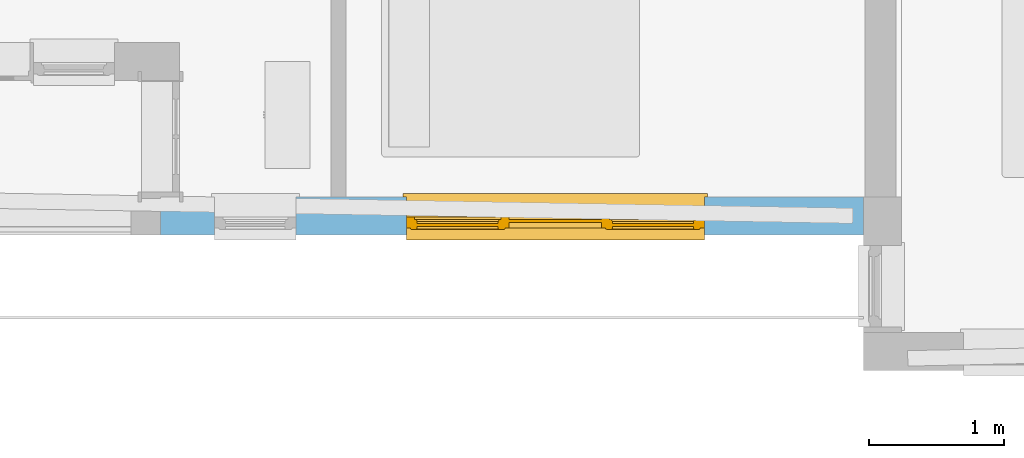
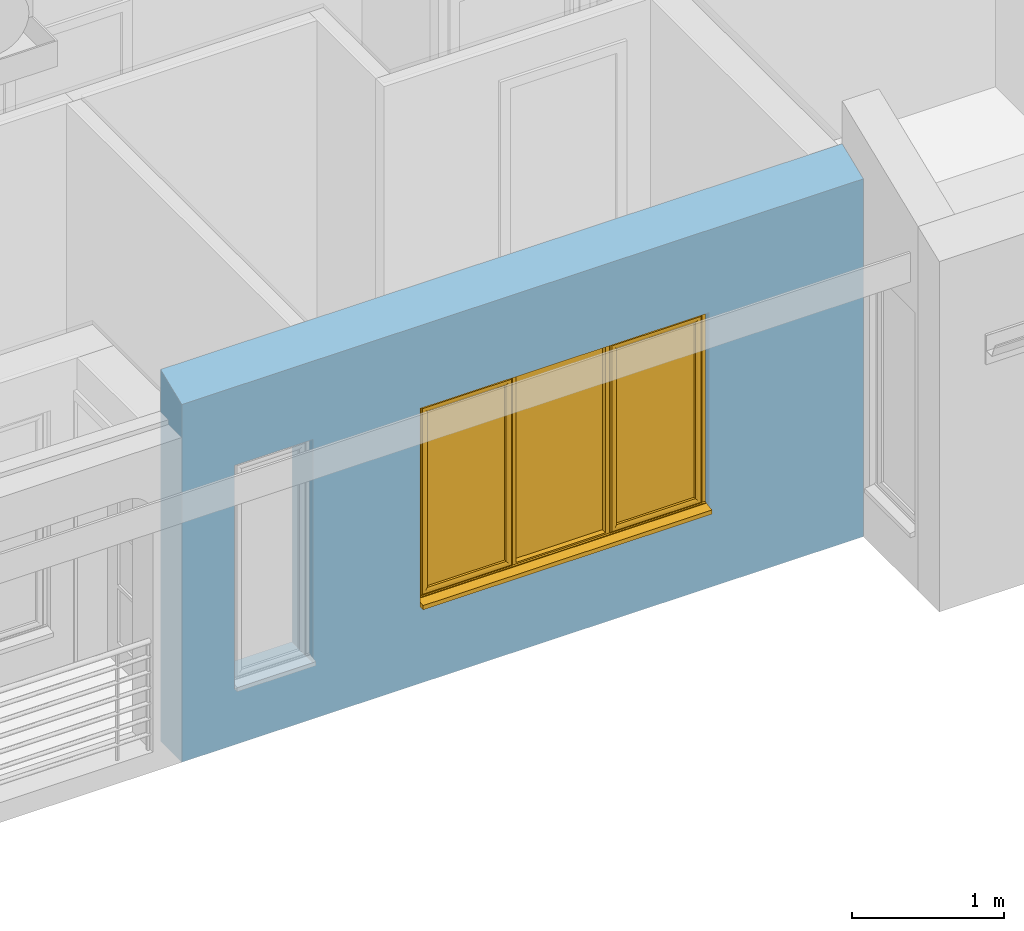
# One storey, part 8 of 41: 1 window, 2 openings, plus 1 element that does not belong to this part.
"""IFC2X3 building model written with IfcOpenShell, lengths in millimetres."""

from ifc_helpers import new_model, entity, si_unit, converted_unit, derived_unit, direction, frame, frame_2d, origin, place, context, subcontext, project, spatial, polyline, rectangle, extrude, clip, bounded_halfspace, faceted_brep, source, transform, mapped, material, material_list, layer, layer_set, layer_usage, type_object, type_shapes, element, fill, save


model = new_model("IFC2X3")

# Units and contexts
model_context = context("Model", 3, precision=0.01, world=origin(), true_north=direction((6.12303176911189e-17, 1.0)))
body_context = subcontext(model_context, "Body", "Model", "MODEL_VIEW")
ifc_project = project(units=[si_unit("LENGTHUNIT", "METRE", prefix="MILLI"), si_unit("AREAUNIT", "SQUARE_METRE"), si_unit("VOLUMEUNIT", "CUBIC_METRE"), converted_unit("PLANEANGLEUNIT", "DEGREE", entity("IfcRatioMeasure", 0.0174532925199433), si_unit("PLANEANGLEUNIT", "RADIAN"), dimensions=[0, 0, 0, 0, 0, 0, 0]), si_unit("MASSUNIT", "GRAM", prefix="KILO"), derived_unit("MASSDENSITYUNIT", [(si_unit("MASSUNIT", "GRAM", prefix="KILO"), 1), (si_unit("LENGTHUNIT", "METRE"), -3)]), si_unit("TIMEUNIT", "SECOND"), si_unit("FREQUENCYUNIT", "HERTZ"), si_unit("THERMODYNAMICTEMPERATUREUNIT", "DEGREE_CELSIUS"), derived_unit("THERMALTRANSMITTANCEUNIT", [(si_unit("MASSUNIT", "GRAM", prefix="KILO"), 1), (si_unit("THERMODYNAMICTEMPERATUREUNIT", "KELVIN"), -1), (si_unit("TIMEUNIT", "SECOND"), -3)]), derived_unit("VOLUMETRICFLOWRATEUNIT", [(si_unit("LENGTHUNIT", "METRE"), 3), (si_unit("TIMEUNIT", "SECOND"), -1)]), si_unit("ELECTRICCURRENTUNIT", "AMPERE"), si_unit("ELECTRICVOLTAGEUNIT", "VOLT"), si_unit("POWERUNIT", "WATT"), si_unit("FORCEUNIT", "NEWTON", prefix="KILO"), si_unit("ILLUMINANCEUNIT", "LUX"), si_unit("LUMINOUSFLUXUNIT", "LUMEN"), si_unit("LUMINOUSINTENSITYUNIT", "CANDELA"), derived_unit("USERDEFINED", [(si_unit("MASSUNIT", "GRAM", prefix="KILO"), -1), (si_unit("LENGTHUNIT", "METRE"), -2), (si_unit("TIMEUNIT", "SECOND"), 3), (si_unit("LUMINOUSFLUXUNIT", "LUMEN"), 1)]), derived_unit("LINEARVELOCITYUNIT", [(si_unit("LENGTHUNIT", "METRE"), 1), (si_unit("TIMEUNIT", "SECOND"), -1)]), si_unit("PRESSUREUNIT", "PASCAL"), derived_unit("USERDEFINED", [(si_unit("LENGTHUNIT", "METRE"), -2), (si_unit("MASSUNIT", "GRAM", prefix="KILO"), 1), (si_unit("TIMEUNIT", "SECOND"), -2)])], contexts=[model_context])

# Site, building, storey
site_placement = place(None, origin())
site = spatial("IfcSite", under=ifc_project, at=site_placement, Name="Surface", CompositionType="ELEMENT")
building_placement = place(site_placement, origin())
building = spatial("IfcBuilding", under=site, at=building_placement, CompositionType="ELEMENT")
storey_placement = place(building_placement, frame((0.0, 0.0, 300.0)))
storey = spatial("IfcBuildingStorey", under=building, at=storey_placement, Name="F.F.L", CompositionType="ELEMENT", Elevation=300.0)

# Wall, openings, window
ifc_material_1 = material(Name="Brickwork - Facebrick (Plettenberg Autumn)")
ifc_layer_1 = layer(ifc_material_1, 110.0)
ifc_material_2 = material(Name="Air Infiltration Barrier")
ifc_layer_2 = layer(ifc_material_2, 50.0)
ifc_material_3 = material(Name="Brickwork - 110mm (Stock)")
ifc_layer_3 = layer(ifc_material_3, 110.0)
ifc_material_4 = material(Name="Plaster")
ifc_layer_4 = layer(ifc_material_4, 10.0)
ifc_layer_set = layer_set([ifc_layer_1, ifc_layer_2, ifc_layer_3, ifc_layer_4], Name="Basic Wall:BrickWall - 270mm (Ext.F&Int.S)")
ifc_layer_usage = layer_usage(ifc_layer_set, "AXIS2", "POSITIVE", -140.0)
wall_type = type_object("IfcWallType", Name="Basic Wall:BrickWall - 270mm (Ext.F&Int.S)", PredefinedType="STANDARD", material=ifc_layer_set)
wall_placement = place(storey_placement, frame((-5376.8751700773, 3720.8400891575, -150.0)))
wall = element("IfcWallStandardCase", 1, at=wall_placement, inside=storey, type_object=wall_type, material=ifc_layer_usage, Name="Basic Wall:BrickWall - 270mm (Ext.F&Int.S)", ObjectType="Basic Wall:BrickWall - 270mm (Ext.F&Int.S)", context=body_context, shape_type="Clipping", body=[
    clip(extrude(rectangle(XDim=5190.0, YDim=280.0, at=frame_2d((2735.0, 3.97903932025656e-13), x_axis=(-1.0, 0.0))), origin(), (0.0, 0.0, 1.0), 2993.00402225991), bounded_halfspace(frame((140.0, -140.0, 2879.87667902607), z_axis=(0.0, -0.374606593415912, 0.927183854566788), x_axis=(1.0, 0.0, 0.0)), False, frame((140.0, -140.0, 2879.87667902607)), polyline([(0.0, 0.0), (5190.0, 0.0), (5190.0, 280.0), (0.0, 280.0), (0.0, 0.0)]))),
])
opening_1_placement = place(wall_placement, frame((4155.0, 140.0, 615.0)))
opening_1 = element("IfcOpeningElement", 2, at=opening_1_placement, cuts=wall, Name="Tpl All Bars1:Tpl All Bars 5:1", ObjectType="Opening", context=body_context, shape_type="SweptSolid", body=[
    extrude(rectangle(XDim=1600.0, YDim=2200.0, at=frame_2d((800.0, 1100.0), x_axis=(-1.0, 0.0))), frame((0.0, 0.0, 0.0), z_axis=(0.0, -1.0, 0.0), x_axis=(0.0, 0.0, 1.0)), (0.0, 0.0, 1.0), 280.0),
])
opening_2_placement = place(wall_placement, frame((1140.0, 140.0, 450.0)))
element("IfcOpeningElement", 3, at=opening_2_placement, cuts=wall, Name="Sgl All Bars:M_Casement 2x3:1", ObjectType="Opening", context=body_context, shape_type="SweptSolid", body=[
    extrude(rectangle(XDim=1800.0, YDim=600.0, at=frame_2d((900.0, 300.0), x_axis=(-1.0, 0.0))), frame((0.0, 0.0, 0.0), z_axis=(0.0, -1.0, 0.0), x_axis=(0.0, 0.0, 1.0)), (0.0, 0.0, 1.0), 280.0),
])
ifc_material_5 = material(Name="Meranti - Varnish Mat")
ifc_material_6 = material(Name="Glass")
ifc_material_list_1 = material_list([ifc_material_5, ifc_material_6])
ifc_material_list_2 = material_list([ifc_material_5, ifc_material_6])
window_style = type_object("IfcWindowStyle", Name="Tpl All Bars 5", ConstructionType="NOTDEFINED", OperationType="TRIPLE_PANEL_VERTICAL", ParameterTakesPrecedence=False, Sizeable=False, material=ifc_material_list_2)
shared_shape = source(origin(), body_context, "Body", "Brep", [
    faceted_brep([(-25.0, -25.0, 0.0), (-25.0, 0.0, 0.0), (0.0, 0.0, 0.0), (0.0, 147.0, 0.0), (2200.0, 147.0, 0.0), (2200.0, 0.0, 0.0), (2225.0, 0.0, 0.0), (2225.0, -25.0, 0.0), (-25.0, -25.0, 25.0), (2225.0, -25.0, 25.0), (2225.0, 0.0, 25.0), (2200.0, 0.0, 25.0), (2200.0, 147.0, 25.0), (0.0, 147.0, 25.0), (0.0, 0.0, 25.0), (-25.0, 0.0, 25.0)], [[[0, 1, 2, 3, 4, 5, 6, 7]], [[8, 9, 10, 11, 12, 13, 14, 15]], [[1, 0, 8, 15]], [[2, 1, 15, 14]], [[3, 2, 14, 13]], [[4, 3, 13, 12]], [[5, 4, 12, 11]], [[6, 5, 11, 10]], [[7, 6, 10, 9]], [[0, 7, 9, 8]]]),
    faceted_brep([(2140.0, 147.0, 1540.0), (2140.0, 147.0, 75.0), (1499.66666666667, 147.0, 75.0), (1499.66666666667, 147.0, 1540.0), (1441.66666666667, 147.0, 1540.0), (1441.66666666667, 147.0, 75.0), (758.333333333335, 147.0, 75.0), (758.333333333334, 147.0, 1540.0), (700.333333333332, 147.0, 1540.0), (700.333333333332, 147.0, 75.0), (60.0, 147.0, 75.0), (60.0, 147.0, 1540.0), (2200.0, 147.0, 1600.0), (0.0, 147.0, 1600.0), (0.0, 147.0, 0.0), (2200.0, 147.0, 0.0), (0.0, 230.0, 1600.0), (0.0, 230.0, 51.0), (0.0, 245.0, 49.6876700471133), (0.0, 245.0, 44.7449676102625), (0.0, 317.500000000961, 33.808884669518), (0.0, 317.500000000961, 0.0), (2200.0, 230.0, 1600.0), (2200.0, 230.0, 51.0), (40.0, 230.0, 1560.0), (40.0, 230.0, 63.0), (718.333333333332, 230.0, 63.0), (718.333333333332, 230.0, 1560.0), (758.333333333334, 230.0, 1560.0), (758.333333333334, 230.0, 63.0), (1441.66666666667, 230.0, 63.0), (1441.66666666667, 230.0, 1560.0), (1481.66666666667, 230.0, 1560.0), (1481.66666666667, 230.0, 63.0), (2160.0, 230.0, 63.0), (2160.0, 230.0, 1560.0), (40.0, 165.0, 1560.0), (40.0, 165.0, 63.0), (718.333333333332, 165.0, 1560.0), (718.333333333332, 165.0, 63.0), (700.333333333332, 165.0, 1540.0), (60.0, 165.0, 1540.0), (60.0, 165.0, 75.0), (700.333333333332, 165.0, 75.0), (2200.0, 317.500000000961, 0.0), (2200.0, 317.500000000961, 33.808884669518), (2200.0, 245.0, 44.7449676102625), (2200.0, 245.0, 49.6876700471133), (2160.0, 165.0, 63.0), (2160.0, 165.0, 1560.0), (2140.0, 165.0, 1540.0), (2140.0, 165.0, 75.0), (758.333333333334, 165.0, 1540.0), (758.333333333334, 165.0, 75.0), (758.333333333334, 189.0, 1560.0), (758.333333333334, 189.0, 63.0), (748.333333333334, 189.0, 1560.0), (748.333333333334, 189.0, 63.0), (748.333333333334, 165.0, 1560.0), (748.333333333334, 165.0, 63.0), (1451.66666666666, 189.0, 1560.0), (1451.66666666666, 189.0, 63.0), (1451.66666666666, 165.0, 63.0), (1451.66666666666, 165.0, 1560.0), (1441.66666666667, 189.0, 1560.0), (1441.66666666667, 189.0, 63.0), (1481.66666666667, 165.0, 1560.0), (1481.66666666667, 165.0, 63.0), (1499.66666666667, 165.0, 1540.0), (1499.66666666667, 165.0, 75.0), (1441.66666666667, 165.0, 1540.0), (1441.66666666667, 165.0, 75.0)], [[[0, 1, 2, 3], [4, 5, 6, 7], [8, 9, 10, 11], [12, 13, 14, 15]], [[14, 13, 16, 17, 18, 19, 20, 21]], [[17, 16, 22, 23], [24, 25, 26, 27], [28, 29, 30, 31], [32, 33, 34, 35]], [[25, 24, 36, 37]], [[36, 38, 39, 37], [40, 41, 42, 43]], [[41, 11, 10, 42]], [[13, 12, 22, 16]], [[36, 24, 27, 38]], [[11, 41, 40, 8]], [[23, 22, 12, 15, 44, 45, 46, 47]], [[35, 34, 48, 49]], [[0, 50, 51, 1]], [[52, 7, 6, 53]], [[8, 40, 43, 9]], [[27, 26, 39, 38]], [[29, 28, 54, 55]], [[55, 54, 56, 57]], [[57, 56, 58, 59]], [[60, 61, 62, 63]], [[61, 60, 64, 65]], [[65, 64, 31, 30]], [[33, 32, 66, 67]], [[68, 3, 2, 69]], [[4, 70, 71, 5]], [[44, 15, 14, 21]], [[45, 44, 21, 20]], [[46, 45, 20, 19]], [[47, 46, 19, 18]], [[23, 47, 18, 17]], [[34, 33, 67, 48]], [[2, 1, 51, 69]], [[71, 53, 6, 5]], [[43, 42, 10, 9]], [[59, 62, 61, 65, 30, 29, 55, 57]], [[26, 25, 37, 39]], [[7, 52, 70, 4]], [[50, 0, 3, 68]], [[54, 28, 31, 64, 60, 63, 58, 56]], [[35, 49, 66, 32]], [[58, 63, 62, 59], [70, 52, 53, 71]], [[66, 49, 48, 67], [50, 68, 69, 51]]], outer=[[False, False, False, True], [True], [True, False, False, False], [True], [True, False], [True], [True], [True], [True], [True], [True], [True], [True], [True], [True], [True], [True], [True], [True], [True], [True], [True], [True], [True], [True], [True], [True], [True], [True], [True], [True], [True], [True], [True], [True], [True], [True], [True], [True], [True, False], [True, False]]),
    faceted_brep([(2130.0, 194.0, 1530.0), (1511.66666666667, 194.0, 1530.0), (1511.66666666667, 194.0, 93.0), (2130.0, 194.0, 93.0), (2130.0, 218.0, 1530.0), (2130.0, 218.0, 93.0), (1511.66666666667, 218.0, 93.0), (1511.66666666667, 218.0, 1530.0)], [[[0, 1, 2, 3]], [[4, 5, 6, 7]], [[1, 0, 4, 7]], [[2, 1, 7, 6]], [[3, 2, 6, 5]], [[0, 3, 5, 4]]]),
    faceted_brep([(1451.66666666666, 189.0, 1560.0), (1451.66666666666, 189.0, 63.0), (748.333333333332, 189.0, 63.0), (748.333333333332, 189.0, 1560.0), (1451.66666666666, 165.0, 1560.0), (748.333333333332, 165.0, 1560.0), (748.333333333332, 165.0, 63.0), (1451.66666666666, 165.0, 63.0)], [[[0, 1, 2, 3]], [[4, 5, 6, 7]], [[1, 0, 4, 7]], [[2, 1, 7, 6]], [[3, 2, 6, 5]], [[0, 3, 5, 4]]]),
    faceted_brep([(70.0, 194.0, 1530.14803772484), (70.0, 194.0, 93.0), (688.481371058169, 194.0, 93.0), (688.481371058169, 194.0, 1530.14803772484), (70.0, 218.0, 1530.14803772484), (688.481371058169, 218.0, 1530.14803772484), (688.481371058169, 218.0, 93.0), (70.0, 218.0, 93.0)], [[[0, 1, 2, 3]], [[4, 5, 6, 7]], [[1, 0, 4, 7]], [[2, 1, 7, 6]], [[3, 2, 6, 5]], [[0, 3, 5, 4]]]),
    faceted_brep([(728.333333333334, 230.0, 1570.0), (728.333333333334, 235.773502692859, 1570.0), (30.0, 235.773502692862, 1570.0), (30.0, 230.0, 1570.0), (718.333333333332, 165.0, 1560.0), (718.333333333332, 230.0, 1560.0), (40.0, 230.0, 1560.0), (40.0, 165.0, 1560.0), (678.333333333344, 179.492899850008, 1520.0), (688.481371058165, 165.0, 1530.14803772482), (69.8519622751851, 165.0, 1530.14803772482), (80.0, 179.49289985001, 1520.0), (678.333333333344, 194.0, 1520.0), (80.0, 194.0, 1520.0), (688.333333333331, 218.0, 1530.0), (688.333333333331, 194.0, 1530.0), (70.0, 194.0, 1530.0), (70.0, 218.0, 1530.0), (678.333333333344, 235.773502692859, 1520.0), (678.333333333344, 218.0, 1520.0), (80.0, 218.0, 1520.0), (80.0, 235.773502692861, 1520.0), (695.779088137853, 241.547005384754, 1537.4457548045), (62.5542451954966, 241.547005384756, 1537.4457548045), (717.548723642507, 241.547005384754, 1559.21539030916), (40.7846096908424, 241.547005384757, 1559.21539030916), (30.0, 235.773502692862, 53.0), (30.0, 230.0, 53.0), (40.0, 230.0, 63.0), (40.0, 165.0, 63.0), (69.8519622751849, 165.0, 92.8519622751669), (80.0, 179.49289985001, 103.0), (80.0, 194.0, 103.0), (70.0, 194.0, 93.0), (70.0, 218.0, 93.0), (80.0, 218.0, 103.0), (80.0, 235.773502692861, 103.0), (62.5542451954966, 241.547005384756, 85.5542451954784), (40.7846096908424, 241.547005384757, 63.7846096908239), (728.333333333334, 235.773502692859, 53.0), (728.333333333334, 230.0, 53.0), (718.333333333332, 230.0, 63.0), (718.333333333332, 165.0, 63.0), (688.481371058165, 165.0, 92.8519622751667), (678.333333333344, 179.492899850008, 103.0), (678.333333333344, 194.0, 103.0), (688.333333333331, 194.0, 93.0), (688.333333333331, 218.0, 93.0), (678.333333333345, 218.0, 103.0), (678.333333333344, 235.773502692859, 103.0), (695.779088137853, 241.547005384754, 85.5542451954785), (717.548723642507, 241.547005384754, 63.7846096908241)], [[[0, 1, 2, 3]], [[4, 5, 6, 7]], [[8, 9, 10, 11]], [[12, 8, 11, 13]], [[14, 15, 16, 17]], [[18, 19, 20, 21]], [[22, 18, 21, 23]], [[1, 24, 25, 2]], [[3, 2, 26, 27]], [[7, 6, 28, 29]], [[11, 10, 30, 31]], [[13, 11, 31, 32]], [[17, 16, 33, 34]], [[21, 20, 35, 36]], [[23, 21, 36, 37]], [[2, 25, 38, 26]], [[27, 26, 39, 40]], [[0, 3, 27, 40], [41, 28, 6, 5]], [[29, 28, 41, 42]], [[4, 7, 29, 42], [43, 30, 10, 9]], [[31, 30, 43, 44]], [[32, 31, 44, 45]], [[12, 13, 32, 45], [46, 33, 16, 15]], [[34, 33, 46, 47]], [[14, 17, 34, 47], [48, 35, 20, 19]], [[36, 35, 48, 49]], [[37, 36, 49, 50]], [[22, 23, 37, 50], [51, 38, 25, 24]], [[26, 38, 51, 39]], [[40, 39, 1, 0]], [[42, 41, 5, 4]], [[44, 43, 9, 8]], [[45, 44, 8, 12]], [[47, 46, 15, 14]], [[49, 48, 19, 18]], [[50, 49, 18, 22]], [[39, 51, 24, 1]]], outer=[[True], [True], [True], [True], [True], [True], [True], [True], [True], [True], [True], [True], [True], [True], [True], [True], [True], [True, False], [True], [True, False], [True], [True], [False, True], [True], [True, False], [True], [True], [False, True], [True], [True], [True], [True], [True], [True], [True], [True], [True]]),
    faceted_brep([(1471.66666666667, 230.0, 1570.0), (1471.66666666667, 235.773502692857, 1570.0), (1471.66666666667, 235.773502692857, 53.0), (1471.66666666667, 230.0, 53.0), (1481.66666666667, 165.0, 1560.0), (1481.66666666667, 230.0, 1560.0), (1481.66666666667, 230.0, 63.0), (1481.66666666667, 165.0, 63.0), (1521.66666666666, 179.492899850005, 1520.0), (1511.51862894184, 165.0, 1530.14803772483), (1511.51862894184, 165.0, 92.8519622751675), (1521.66666666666, 179.492899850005, 103.0), (1521.66666666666, 194.0, 1520.0), (1521.66666666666, 194.0, 103.0), (1511.66666666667, 218.0, 1530.0), (1511.66666666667, 194.0, 1530.0), (1511.66666666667, 194.0, 93.0), (1511.66666666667, 218.0, 93.0), (1521.66666666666, 235.773502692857, 1520.0), (1521.66666666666, 218.0, 1520.0), (1521.66666666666, 218.0, 103.0), (1521.66666666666, 235.773502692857, 103.0), (1504.22091186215, 241.547005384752, 1537.44575480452), (1504.22091186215, 241.547005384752, 85.5542451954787), (1482.45127635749, 241.547005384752, 1559.21539030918), (1482.45127635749, 241.547005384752, 63.7846096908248), (2170.0, 235.773502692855, 53.0), (2170.0, 230.0, 53.0), (2160.0, 230.0, 63.0), (2160.0, 165.0, 63.0), (2130.14803772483, 165.0, 92.8519622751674), (2120.0, 179.492899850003, 103.0), (2120.0, 194.0, 103.0), (2130.0, 194.0, 93.0), (2130.0, 218.0, 93.0), (2120.0, 218.0, 103.0), (2120.0, 235.773502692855, 103.0), (2137.44575480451, 241.54700538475, 85.5542451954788), (2159.21539030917, 241.54700538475, 63.7846096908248), (2170.0, 235.773502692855, 1570.0), (2170.0, 230.0, 1570.0), (2160.0, 230.0, 1560.0), (2160.0, 165.0, 1560.0), (2130.14803772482, 165.0, 1530.14803772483), (2120.0, 179.492899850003, 1520.0), (2120.0, 194.0, 1520.0), (2130.0, 194.0, 1530.0), (2130.0, 218.0, 1530.0), (2120.0, 218.0, 1520.0), (2120.0, 235.773502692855, 1520.0), (2137.44575480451, 241.54700538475, 1537.44575480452), (2159.21539030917, 241.54700538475, 1559.21539030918)], [[[0, 1, 2, 3]], [[4, 5, 6, 7]], [[8, 9, 10, 11]], [[12, 8, 11, 13]], [[14, 15, 16, 17]], [[18, 19, 20, 21]], [[22, 18, 21, 23]], [[1, 24, 25, 2]], [[3, 2, 26, 27]], [[7, 6, 28, 29]], [[11, 10, 30, 31]], [[13, 11, 31, 32]], [[17, 16, 33, 34]], [[21, 20, 35, 36]], [[23, 21, 36, 37]], [[2, 25, 38, 26]], [[27, 26, 39, 40]], [[29, 28, 41, 42]], [[31, 30, 43, 44]], [[32, 31, 44, 45]], [[34, 33, 46, 47]], [[36, 35, 48, 49]], [[37, 36, 49, 50]], [[26, 38, 51, 39]], [[40, 39, 1, 0]], [[3, 27, 40, 0], [5, 41, 28, 6]], [[42, 41, 5, 4]], [[7, 29, 42, 4], [9, 43, 30, 10]], [[44, 43, 9, 8]], [[45, 44, 8, 12]], [[13, 32, 45, 12], [15, 46, 33, 16]], [[47, 46, 15, 14]], [[17, 34, 47, 14], [19, 48, 35, 20]], [[49, 48, 19, 18]], [[50, 49, 18, 22]], [[23, 37, 50, 22], [24, 51, 38, 25]], [[39, 51, 24, 1]]], outer=[[True], [True], [True], [True], [True], [True], [True], [True], [True], [True], [True], [True], [True], [True], [True], [True], [True], [True], [True], [True], [True], [True], [True], [True], [True], [True, False], [True], [True, False], [True], [True], [False, True], [True], [True, False], [True], [True], [False, True], [True]]),
    faceted_brep([(1090.0, 173.0, 63.0), (1110.0, 173.0, 63.0), (1110.0, 173.0, 552.0), (1451.66666666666, 173.0, 552.0), (1451.66666666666, 173.0, 572.0), (1110.0, 173.0, 572.0), (1110.0, 173.0, 1051.0), (1451.66666666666, 173.0, 1051.0), (1451.66666666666, 173.0, 1071.0), (1110.0, 173.0, 1071.0), (1110.0, 173.0, 1560.0), (1090.0, 173.0, 1560.0), (1090.0, 173.0, 1071.0), (748.33333333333, 173.0, 1071.0), (748.33333333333, 173.0, 1051.0), (1090.0, 173.0, 1051.0), (1090.0, 173.0, 572.0), (748.33333333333, 173.0, 572.0), (748.33333333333, 173.0, 552.0), (1090.0, 173.0, 552.0), (1090.0, 181.0, 63.0), (1090.0, 181.0, 552.0), (748.33333333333, 181.0, 552.0), (748.33333333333, 181.0, 572.0), (1090.0, 181.0, 572.0), (1090.0, 181.0, 1051.0), (748.33333333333, 181.0, 1051.0), (748.33333333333, 181.0, 1071.0), (1090.0, 181.0, 1071.0), (1090.0, 181.0, 1560.0), (1110.0, 181.0, 1560.0), (1110.0, 181.0, 1071.0), (1451.66666666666, 181.0, 1071.0), (1451.66666666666, 181.0, 1051.0), (1110.0, 181.0, 1051.0), (1110.0, 181.0, 572.0), (1451.66666666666, 181.0, 572.0), (1451.66666666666, 181.0, 552.0), (1110.0, 181.0, 552.0), (1110.0, 181.0, 63.0)], [[[0, 1, 2, 3, 4, 5, 6, 7, 8, 9, 10, 11, 12, 13, 14, 15, 16, 17, 18, 19]], [[20, 21, 22, 23, 24, 25, 26, 27, 28, 29, 30, 31, 32, 33, 34, 35, 36, 37, 38, 39]], [[1, 0, 20, 39]], [[2, 1, 39, 38]], [[3, 2, 38, 37]], [[4, 3, 37, 36]], [[5, 4, 36, 35]], [[6, 5, 35, 34]], [[7, 6, 34, 33]], [[8, 7, 33, 32]], [[9, 8, 32, 31]], [[10, 9, 31, 30]], [[11, 10, 30, 29]], [[12, 11, 29, 28]], [[13, 12, 28, 27]], [[14, 13, 27, 26]], [[15, 14, 26, 25]], [[16, 15, 25, 24]], [[17, 16, 24, 23]], [[18, 17, 23, 22]], [[19, 18, 22, 21]], [[0, 19, 21, 20]]]),
    faceted_brep([(369.166666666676, 210.0, 93.0), (369.166666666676, 210.0, 552.0), (70.0, 210.0, 552.0), (70.0, 210.0, 572.0), (369.166666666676, 210.0, 572.0), (369.166666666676, 210.0, 1051.0), (70.0, 210.0, 1051.0), (70.0, 210.0, 1071.0), (369.166666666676, 210.0, 1071.0), (369.166666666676, 210.0, 1530.0), (389.166666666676, 210.0, 1530.0), (389.166666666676, 210.0, 1071.0), (688.333333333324, 210.0, 1071.0), (688.333333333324, 210.0, 1051.0), (389.166666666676, 210.0, 1051.0), (389.166666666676, 210.0, 572.0), (688.333333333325, 210.0, 572.0), (688.333333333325, 210.0, 552.0), (389.166666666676, 210.0, 552.0), (389.166666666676, 210.0, 93.0), (369.166666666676, 202.0, 93.0), (389.166666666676, 202.0, 93.0), (389.166666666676, 202.0, 552.0), (688.333333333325, 202.0, 552.0), (688.333333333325, 202.0, 572.0), (389.166666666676, 202.0, 572.0), (389.166666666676, 202.0, 1051.0), (688.333333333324, 202.0, 1051.0), (688.333333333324, 202.0, 1071.0), (389.166666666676, 202.0, 1071.0), (389.166666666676, 202.0, 1530.0), (369.166666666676, 202.0, 1530.0), (369.166666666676, 202.0, 1071.0), (70.0, 202.0, 1071.0), (70.0, 202.0, 1051.0), (369.166666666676, 202.0, 1051.0), (369.166666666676, 202.0, 572.0), (70.0, 202.0, 572.0), (70.0, 202.0, 552.0), (369.166666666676, 202.0, 552.0)], [[[0, 1, 2, 3, 4, 5, 6, 7, 8, 9, 10, 11, 12, 13, 14, 15, 16, 17, 18, 19]], [[20, 21, 22, 23, 24, 25, 26, 27, 28, 29, 30, 31, 32, 33, 34, 35, 36, 37, 38, 39]], [[1, 0, 20, 39]], [[2, 1, 39, 38]], [[3, 2, 38, 37]], [[4, 3, 37, 36]], [[5, 4, 36, 35]], [[6, 5, 35, 34]], [[7, 6, 34, 33]], [[8, 7, 33, 32]], [[9, 8, 32, 31]], [[10, 9, 31, 30]], [[11, 10, 30, 29]], [[12, 11, 29, 28]], [[13, 12, 28, 27]], [[14, 13, 27, 26]], [[15, 14, 26, 25]], [[16, 15, 25, 24]], [[17, 16, 24, 23]], [[18, 17, 23, 22]], [[19, 18, 22, 21]], [[0, 19, 21, 20]]]),
    faceted_brep([(1810.83333333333, 210.0, 565.333333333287), (1810.83333333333, 210.0, 93.0), (1810.83333333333, 202.0, 93.0), (1810.83333333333, 202.0, 565.333333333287), (1511.66666666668, 210.0, 565.333333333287), (1511.66666666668, 202.0, 565.333333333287), (1511.66666666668, 210.0, 585.333333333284), (1511.66666666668, 202.0, 585.333333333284), (1810.83333333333, 210.0, 585.333333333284), (1810.83333333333, 202.0, 585.333333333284), (1810.83333333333, 210.0, 1051.0), (1810.83333333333, 202.0, 1051.0), (1511.66666666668, 210.0, 1051.0), (1511.66666666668, 202.0, 1051.0), (1511.66666666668, 210.0, 1071.0), (1511.66666666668, 202.0, 1071.0), (1810.83333333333, 210.0, 1071.0), (1810.83333333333, 202.0, 1071.0), (1810.83333333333, 210.0, 1530.0), (1810.83333333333, 202.0, 1530.0), (1830.83333333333, 210.0, 1530.0), (1830.83333333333, 202.0, 1530.0), (1830.83333333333, 210.0, 1071.0), (1830.83333333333, 202.0, 1071.0), (2130.0, 210.0, 1071.0), (2130.0, 202.0, 1071.0), (2130.0, 210.0, 1051.0), (2130.0, 202.0, 1051.0), (1830.83333333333, 210.0, 1051.0), (1830.83333333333, 202.0, 1051.0), (1830.83333333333, 210.0, 585.333333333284), (1830.83333333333, 202.0, 585.333333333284), (2130.0, 210.0, 585.333333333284), (2130.0, 202.0, 585.333333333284), (2130.0, 210.0, 565.333333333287), (2130.0, 202.0, 565.333333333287), (1830.83333333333, 210.0, 565.333333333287), (1830.83333333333, 202.0, 565.333333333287), (1830.83333333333, 210.0, 93.0), (1830.83333333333, 202.0, 93.0)], [[[0, 1, 2, 3]], [[4, 0, 3, 5]], [[6, 4, 5, 7]], [[8, 6, 7, 9]], [[10, 8, 9, 11]], [[12, 10, 11, 13]], [[14, 12, 13, 15]], [[16, 14, 15, 17]], [[18, 16, 17, 19]], [[20, 18, 19, 21]], [[22, 20, 21, 23]], [[24, 22, 23, 25]], [[26, 24, 25, 27]], [[28, 26, 27, 29]], [[30, 28, 29, 31]], [[32, 30, 31, 33]], [[34, 32, 33, 35]], [[36, 34, 35, 37]], [[38, 36, 37, 39]], [[1, 38, 39, 2]], [[2, 39, 37, 35, 33, 31, 29, 27, 25, 23, 21, 19, 17, 15, 13, 11, 9, 7, 5, 3]], [[1, 0, 4, 6, 8, 10, 12, 14, 16, 18, 20, 22, 24, 26, 28, 30, 32, 34, 36, 38]]]),
])
type_shapes(window_style, [shared_shape])
window_placement = place(opening_1_placement, frame((0.0, 0.0, 0.0), z_axis=(0.0, 0.0, 1.0), x_axis=(-1.0, 0.0, 0.0)))
window = element("IfcWindow", 4, at=window_placement, inside=storey, type_object=window_style, material=ifc_material_list_1, Name="Tpl All Bars1:Tpl All Bars 5", ObjectType="Tpl All Bars 5", OverallHeight=1600.0, OverallWidth=2200.0, context=body_context, shape_type="MappedRepresentation", body=[
    mapped(shared_shape, transform((0.0, 0.0, 0.0), scale=1.0)),
])
fill(opening_1, window)

save(model, "model.ifc")
